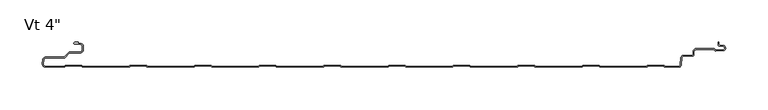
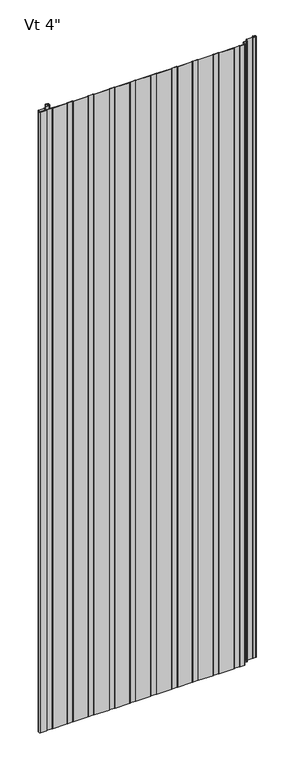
"""IFC4 building model written with IfcOpenShell, lengths in millimetres: plate geometry."""

from ifc_helpers import new_model, si_unit, point, frame_2d, origin, origin_with_axes, place, context, project, spatial, polyline, circle_curve, trimmed, segment, composite_curve, outline, extrude, source, transform, mapped, element, save


def plate_28674070(model_context):
    return source(origin(), model_context, "Body", "SweptSolid", [
        extrude(outline(composite_curve([segment(polyline([(-391.6415934, -101.5997351), (-413.4521176, -101.5997351)]), True, "CONTINUOUS"), segment(trimmed(circle_curve(frame_2d((-413.4521176, -98.0294958)), 3.5702393), [point((-413.4521176, -101.5997351))], [point((-417.008762, -97.7182254))], False, "CARTESIAN"), True, "CONTINUOUS"), segment(polyline([(-417.008762, -97.7182254), (-416.5690675, -92.6941788)]), True, "CONTINUOUS"), segment(trimmed(circle_curve(frame_2d((-412.9198392, -93.3049799)), 3.6999926), [point((-416.5690675, -92.6941788))], [point((-412.9198392, -89.6049873))], False, "CARTESIAN"), True, "CONTINUOUS"), segment(polyline([(-412.9198392, -89.6049873), (-391.7773997, -89.6049873)]), True, "CONTINUOUS"), segment(trimmed(circle_curve(frame_2d((-391.7773997, -88.3049899)), 1.2999974), [point((-391.7773997, -89.6049873))], [point((-390.8581627, -89.2242269))], True, "CARTESIAN"), True, "CONTINUOUS"), segment(polyline([(-390.8581627, -89.2242269), (-386.0297453, -84.3958094)]), True, "CONTINUOUS"), segment(trimmed(circle_curve(frame_2d((-384.1205608, -86.3049939)), 2.6999946), [point((-386.0297453, -84.3958094))], [point((-384.1205608, -83.6049993))], False, "CARTESIAN"), True, "CONTINUOUS"), segment(polyline([(-384.1205608, -83.6049993), (-372.3096717, -83.6049993)]), True, "CONTINUOUS"), segment(trimmed(circle_curve(frame_2d((-372.3096717, -81.255004)), 2.3499953), [point((-372.3096717, -83.6049993))], [point((-369.9596764, -81.255004))], True, "CARTESIAN"), True, "CONTINUOUS"), segment(polyline([(-369.9596764, -81.255004), (-369.9596764, -76.8550128)]), True, "CONTINUOUS"), segment(trimmed(circle_curve(frame_2d((-372.3096717, -76.8550128)), 2.3499953), [point((-369.9596764, -76.8550128))], [point((-372.3096717, -74.5050175))], True, "CARTESIAN"), True, "CONTINUOUS"), segment(polyline([(-372.3096717, -74.5050175), (-378.8289779, -74.5050175)]), True, "CONTINUOUS"), segment(trimmed(circle_curve(frame_2d((-378.7686908, -73.3065352)), 1.1999976), [point((-378.8289779, -74.5050175))], [point((-379.9683001, -73.2760133))], False, "CARTESIAN"), True, "CONTINUOUS"), segment(trimmed(circle_curve(frame_2d((-378.7686908, -73.3065352)), 1.1999976), [point((-379.9683001, -73.2760133))], [point((-378.7671761, -72.1065386))], False, "CARTESIAN"), True, "CONTINUOUS"), segment(polyline([(-378.7671761, -72.1065386), (-375.0087827, -72.1065386), (-375.0087827, -73.5050175), (-372.3096717, -73.5050175)]), True, "CONTINUOUS"), segment(trimmed(circle_curve(frame_2d((-372.3096717, -76.8550128)), 3.3499953), [point((-372.3096717, -73.5050175))], [point((-368.9596764, -76.8550128))], False, "CARTESIAN"), True, "CONTINUOUS"), segment(polyline([(-368.9596764, -76.8550128), (-368.9596764, -81.255004)]), True, "CONTINUOUS"), segment(trimmed(circle_curve(frame_2d((-372.3096717, -81.255004)), 3.3499953), [point((-368.9596764, -81.255004))], [point((-372.3096717, -84.6049993))], False, "CARTESIAN"), True, "CONTINUOUS"), segment(polyline([(-372.3096717, -84.6049993), (-384.1205608, -84.6049993)]), True, "CONTINUOUS"), segment(trimmed(circle_curve(frame_2d((-384.1205608, -86.3049939)), 1.6999946), [point((-384.1205608, -84.6049993))], [point((-385.3226385, -85.1029162))], True, "CARTESIAN"), True, "CONTINUOUS"), segment(polyline([(-385.3226385, -85.1029162), (-390.8247096, -90.6049873), (-412.9198392, -90.6049873)]), True, "CONTINUOUS"), segment(trimmed(circle_curve(frame_2d((-412.9198392, -93.3049799)), 2.6999926), [point((-412.9198392, -90.6049873))], [point((-415.5765709, -92.8235893))], True, "CARTESIAN"), True, "CONTINUOUS"), segment(polyline([(-415.5765709, -92.8235893), (-416.0125699, -97.8054102)]), True, "CONTINUOUS"), segment(trimmed(circle_curve(frame_2d((-413.4521176, -98.0294958)), 2.5702393), [point((-416.0125699, -97.8054102))], [point((-413.4521176, -100.5997351))], True, "CARTESIAN"), True, "CONTINUOUS"), segment(polyline([(-413.4521176, -100.5997351), (-391.4790962, -100.5997351), (-390.2791277, -99.3997666), (-370.5597151, -99.3997666), (-369.3594844, -100.5999973), (-315.2793527, -100.5999973), (-314.079122, -99.3997666), (-294.3597095, -99.3997666), (-293.1594787, -100.5999973), (-239.079347, -100.5999973), (-237.8791163, -99.3997666), (-218.1597038, -99.3997666), (-216.9594731, -100.5999973), (-162.8793413, -100.5999973), (-161.6791106, -99.3997666), (-141.9596981, -99.3997666), (-140.7594674, -100.5999973), (-86.6793356, -100.5999973), (-85.4791049, -99.3997666), (-65.7596924, -99.3997666), (-64.5594617, -100.5999973), (-10.4793299, -100.5999973), (-9.2790992, -99.3997666), (10.4403133, -99.3997666), (11.640544, -100.5999973), (65.7206758, -100.5999973), (66.9209065, -99.3997666), (86.640319, -99.3997666), (87.8405497, -100.5999973), (141.9206815, -100.5999973), (143.1209122, -99.3997666), (162.8403247, -99.3997666), (164.0405554, -100.5999973), (218.1206872, -100.5999973), (219.3209179, -99.3997666), (239.0403304, -99.3997666), (240.2405611, -100.5999973), (294.3206929, -100.5999973), (295.5209236, -99.3997666), (315.2403361, -99.3997666), (316.4396652, -100.5990957), (332.5384359, -100.5990957)]), True, "CONTINUOUS"), segment(trimmed(circle_curve(frame_2d((332.5384359, -98.6491016)), 1.9499941), [point((332.5384359, -100.5990957))], [point((334.4810097, -98.8190548))], True, "CARTESIAN"), True, "CONTINUOUS"), segment(polyline([(334.4810097, -98.8190548), (335.2215397, -90.3547583)]), True, "CONTINUOUS"), segment(trimmed(circle_curve(frame_2d((338.2400056, -90.6188399)), 3.0299959), [point((335.2215397, -90.3547583))], [point((338.3657441, -87.591454))], False, "CARTESIAN"), True, "CONTINUOUS"), segment(polyline([(338.3657441, -87.591454), (348.4595941, -87.591454)]), True, "CONTINUOUS"), segment(trimmed(circle_curve(frame_2d((348.4595941, -86.6423006)), 0.9491534), [point((348.4595941, -87.591454))], [point((349.4087475, -86.6423006))], True, "CARTESIAN"), True, "CONTINUOUS"), segment(polyline([(349.4087475, -86.6423006), (349.4087475, -83.5009009)]), True, "CONTINUOUS"), segment(trimmed(circle_curve(frame_2d((353.4087415, -83.5009009)), 3.999994), [point((349.4087475, -83.5009009))], [point((353.4087415, -79.5009069))], False, "CARTESIAN"), True, "CONTINUOUS"), segment(polyline([(353.4087415, -79.5009069), (374.5895515, -79.5009069), (375.7334028, -81.4821154), (384.706811, -81.126855)]), True, "CONTINUOUS"), segment(trimmed(circle_curve(frame_2d((384.6236622, -79.0266264)), 2.1018739), [point((384.706811, -81.126855))], [point((384.7037148, -76.9262775))], True, "CARTESIAN"), True, "CONTINUOUS"), segment(polyline([(384.7037148, -76.9262775), (380.6977997, -76.6818625)]), True, "CONTINUOUS"), segment(trimmed(circle_curve(frame_2d((380.8099653, -74.843489)), 1.8417922), [point((380.6977997, -76.6818625))], [point((378.9686884, -74.88705))], False, "CARTESIAN"), True, "CONTINUOUS"), segment(polyline([(378.9686884, -74.88705), (378.9686884, -72.1025034), (379.9686884, -72.1025034), (379.9686884, -74.8729362)]), True, "CONTINUOUS"), segment(trimmed(circle_curve(frame_2d((380.8099653, -74.843489)), 0.8417922), [point((379.9686884, -74.8729362))], [point((380.7587, -75.6837187))], True, "CARTESIAN"), True, "CONTINUOUS"), segment(polyline([(380.7587, -75.6837187), (384.7543204, -75.9275055)]), True, "CONTINUOUS"), segment(trimmed(circle_curve(frame_2d((384.6236622, -79.0266264)), 3.1018739), [point((384.7543204, -75.9275055))], [point((384.7463704, -82.1260723))], False, "CARTESIAN"), True, "CONTINUOUS"), segment(polyline([(384.7463704, -82.1260723), (376.0344401, -82.4709806)]), True, "CONTINUOUS"), segment(trimmed(circle_curve(frame_2d((375.987224, -81.0217524)), 1.4499971), [point((376.0344401, -82.4709806))], [point((374.7314897, -81.746751))], False, "CARTESIAN"), True, "CONTINUOUS"), segment(polyline([(374.7314897, -81.746751), (374.0122013, -80.5009069), (353.4087415, -80.5009069)]), True, "CONTINUOUS"), segment(trimmed(circle_curve(frame_2d((353.4087415, -83.5009009)), 2.999994), [point((353.4087415, -80.5009069))], [point((350.4087475, -83.5009009))], True, "CARTESIAN"), True, "CONTINUOUS"), segment(polyline([(350.4087475, -83.5009009), (350.4087475, -86.6423006)]), True, "CONTINUOUS"), segment(trimmed(circle_curve(frame_2d((348.4595941, -86.6423006)), 1.9491534), [point((350.4087475, -86.6423006))], [point((348.4595941, -88.591454))], False, "CARTESIAN"), True, "CONTINUOUS"), segment(polyline([(348.4595941, -88.591454), (338.3429135, -88.591454)]), True, "CONTINUOUS"), segment(trimmed(circle_curve(frame_2d((338.2400056, -90.6188399)), 2.0299959), [point((338.3429135, -88.591454))], [point((336.2177344, -90.4419141))], True, "CARTESIAN"), True, "CONTINUOUS"), segment(polyline([(336.2177344, -90.4419141), (335.4772044, -98.9062105)]), True, "CONTINUOUS"), segment(trimmed(circle_curve(frame_2d((332.5384359, -98.6491016)), 2.9499941), [point((335.4772044, -98.9062105))], [point((332.5384359, -101.5990957))], False, "CARTESIAN"), True, "CONTINUOUS"), segment(polyline([(332.5384359, -101.5990957), (316.6525313, -101.5990957)]), True, "CONTINUOUS"), segment(trimmed(circle_curve(frame_2d((316.6017161, -100.200021)), 1.3999972), [point((316.6525313, -101.5990957))], [point((315.5576653, -101.1327322))], False, "CARTESIAN"), True, "CONTINUOUS"), segment(polyline([(315.5576653, -101.1327322), (314.8246997, -100.3997666), (295.9340305, -100.3997666), (295.2010858, -101.1327112)]), True, "CONTINUOUS"), segment(trimmed(circle_curve(frame_2d((294.157035, -100.2000001)), 1.3999972), [point((295.2010858, -101.1327112))], [point((294.157035, -101.5999973))], False, "CARTESIAN"), True, "CONTINUOUS"), segment(polyline([(294.157035, -101.5999973), (240.4095218, -101.5999973)]), True, "CONTINUOUS"), segment(trimmed(circle_curve(frame_2d((240.4018685, -100.200021)), 1.3999972), [point((240.4095218, -101.5999973))], [point((239.3578177, -101.1327322))], False, "CARTESIAN"), True, "CONTINUOUS"), segment(polyline([(239.3578177, -101.1327322), (238.6248521, -100.3997666), (219.7341829, -100.3997666), (219.0012382, -101.1327112)]), True, "CONTINUOUS"), segment(trimmed(circle_curve(frame_2d((217.9571874, -100.2000001)), 1.3999972), [point((219.0012382, -101.1327112))], [point((217.9571874, -101.5999973))], False, "CARTESIAN"), True, "CONTINUOUS"), segment(polyline([(217.9571874, -101.5999973), (164.2096742, -101.5999973)]), True, "CONTINUOUS"), segment(trimmed(circle_curve(frame_2d((164.2020209, -100.200021)), 1.3999972), [point((164.2096742, -101.5999973))], [point((163.1579701, -101.1327322))], False, "CARTESIAN"), True, "CONTINUOUS"), segment(polyline([(163.1579701, -101.1327322), (162.4250045, -100.3997666), (143.5343353, -100.3997666), (142.8013906, -101.1327112)]), True, "CONTINUOUS"), segment(trimmed(circle_curve(frame_2d((141.7573398, -100.2000001)), 1.3999972), [point((142.8013906, -101.1327112))], [point((141.7573398, -101.5999973))], False, "CARTESIAN"), True, "CONTINUOUS"), segment(polyline([(141.7573398, -101.5999973), (88.0098266, -101.5999973)]), True, "CONTINUOUS"), segment(trimmed(circle_curve(frame_2d((88.0021733, -100.200021)), 1.3999972), [point((88.0098266, -101.5999973))], [point((86.9581225, -101.1327322))], False, "CARTESIAN"), True, "CONTINUOUS"), segment(polyline([(86.9581225, -101.1327322), (86.2251569, -100.3997666), (67.3344877, -100.3997666), (66.601543, -101.1327112)]), True, "CONTINUOUS"), segment(trimmed(circle_curve(frame_2d((65.5574922, -100.2000001)), 1.3999972), [point((66.601543, -101.1327112))], [point((65.5574922, -101.5999973))], False, "CARTESIAN"), True, "CONTINUOUS"), segment(polyline([(65.5574922, -101.5999973), (11.809979, -101.5999973)]), True, "CONTINUOUS"), segment(trimmed(circle_curve(frame_2d((11.8023257, -100.200021)), 1.3999972), [point((11.809979, -101.5999973))], [point((10.7582749, -101.1327322))], False, "CARTESIAN"), True, "CONTINUOUS"), segment(polyline([(10.7582749, -101.1327322), (10.0253093, -100.3997666), (-8.8653599, -100.3997666), (-9.5983046, -101.1327112)]), True, "CONTINUOUS"), segment(trimmed(circle_curve(frame_2d((-10.6423554, -100.2000001)), 1.3999972), [point((-9.5983046, -101.1327112))], [point((-10.6423554, -101.5999973))], False, "CARTESIAN"), True, "CONTINUOUS"), segment(polyline([(-10.6423554, -101.5999973), (-64.3898686, -101.5999973)]), True, "CONTINUOUS"), segment(trimmed(circle_curve(frame_2d((-64.3975219, -100.200021)), 1.3999972), [point((-64.3898686, -101.5999973))], [point((-65.4415727, -101.1327322))], False, "CARTESIAN"), True, "CONTINUOUS"), segment(polyline([(-65.4415727, -101.1327322), (-66.1745383, -100.3997666), (-85.0652075, -100.3997666), (-85.7981522, -101.1327112)]), True, "CONTINUOUS"), segment(trimmed(circle_curve(frame_2d((-86.842203, -100.2000001)), 1.3999972), [point((-85.7981522, -101.1327112))], [point((-86.842203, -101.5999973))], False, "CARTESIAN"), True, "CONTINUOUS"), segment(polyline([(-86.842203, -101.5999973), (-140.5897162, -101.5999973)]), True, "CONTINUOUS"), segment(trimmed(circle_curve(frame_2d((-140.5973695, -100.200021)), 1.3999972), [point((-140.5897162, -101.5999973))], [point((-141.6414203, -101.1327322))], False, "CARTESIAN"), True, "CONTINUOUS"), segment(polyline([(-141.6414203, -101.1327322), (-142.3743859, -100.3997666), (-161.2650551, -100.3997666), (-161.9979998, -101.1327112)]), True, "CONTINUOUS"), segment(trimmed(circle_curve(frame_2d((-163.0420506, -100.2000001)), 1.3999972), [point((-161.9979998, -101.1327112))], [point((-163.0420506, -101.5999973))], False, "CARTESIAN"), True, "CONTINUOUS"), segment(polyline([(-163.0420506, -101.5999973), (-216.7895638, -101.5999973)]), True, "CONTINUOUS"), segment(trimmed(circle_curve(frame_2d((-216.7972171, -100.200021)), 1.3999972), [point((-216.7895638, -101.5999973))], [point((-217.8412679, -101.1327322))], False, "CARTESIAN"), True, "CONTINUOUS"), segment(polyline([(-217.8412679, -101.1327322), (-218.5742335, -100.3997666), (-237.4649027, -100.3997666), (-238.1978474, -101.1327112)]), True, "CONTINUOUS"), segment(trimmed(circle_curve(frame_2d((-239.2418982, -100.2000001)), 1.3999972), [point((-238.1978474, -101.1327112))], [point((-239.2418982, -101.5999973))], False, "CARTESIAN"), True, "CONTINUOUS"), segment(polyline([(-239.2418982, -101.5999973), (-292.9894114, -101.5999973)]), True, "CONTINUOUS"), segment(trimmed(circle_curve(frame_2d((-292.9970647, -100.200021)), 1.3999972), [point((-292.9894114, -101.5999973))], [point((-294.0411155, -101.1327322))], False, "CARTESIAN"), True, "CONTINUOUS"), segment(polyline([(-294.0411155, -101.1327322), (-294.7740811, -100.3997666), (-313.6647503, -100.3997666), (-314.397695, -101.1327112)]), True, "CONTINUOUS"), segment(trimmed(circle_curve(frame_2d((-315.4417458, -100.2000001)), 1.3999972), [point((-314.397695, -101.1327112))], [point((-315.4417458, -101.5999973))], False, "CARTESIAN"), True, "CONTINUOUS"), segment(polyline([(-315.4417458, -101.5999973), (-369.189259, -101.5999973)]), True, "CONTINUOUS"), segment(trimmed(circle_curve(frame_2d((-369.1969123, -100.200021)), 1.3999972), [point((-369.189259, -101.5999973))], [point((-370.2409631, -101.1327322))], False, "CARTESIAN"), True, "CONTINUOUS"), segment(polyline([(-370.2409631, -101.1327322), (-370.9739287, -100.3997666), (-389.8649141, -100.3997666), (-390.5976403, -101.1324928)]), True, "CONTINUOUS"), segment(trimmed(circle_curve(frame_2d((-391.6415934, -100.199869)), 1.3998661), [point((-390.5976403, -101.1324928))], [point((-391.6415934, -101.5997351))], False, "CARTESIAN"), True, "CONTINUOUS")], self_intersect=False)), origin_with_axes(), (0.0, 0.0, 1.0), 2400.0),
    ])


if __name__ == "__main__":
    model = new_model("IFC4")
    model_context = context("Model", 3, world=origin())
    ifc_project = project(units=[si_unit("LENGTHUNIT", "METRE", prefix="MILLI")], contexts=[model_context])
    site = spatial("IfcSite", under=ifc_project)
    building = spatial("IfcBuilding", under=site)
    placement = place(None, origin())
    plate_shape = plate_28674070(model_context)
    element("IfcPlate", 1, ObjectType="KIP-30-Karrier-KP-R19-CP-Vt-SL_SL : Vt 4\"", at=placement, inside=building, context=model_context, shape_type="MappedRepresentation", body=[
        mapped(plate_shape, transform((0.0, 0.0, 0.0), x_axis=(1.0, 0.0, 0.0), y_axis=(0.0, 1.0, 0.0), z_axis=(0.0, 0.0, 1.0))),
    ])
    save(model, "model.ifc")
